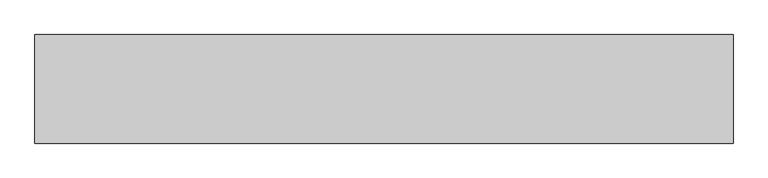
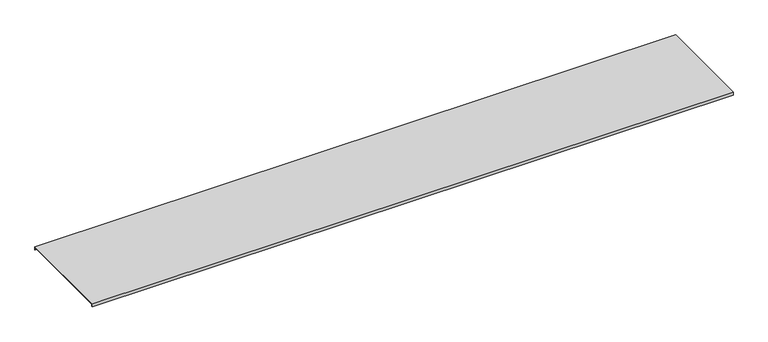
"""IFC4 building model written with IfcOpenShell, lengths in millimetres: cable carrier fitting geometry, ССT_Hyperline_FBTR-CVR-2000 Крышка для оптического лотка : Крышка для оптического лотка."""

import ifcopenshell
import ifcopenshell.guid

model = None  # the IFC model being written
_history = None  # IfcOwnerHistory: only IFC2X3 demands one
_inside = {}  # id of a spatial element -> (the spatial element, [elements in it])
_under = {}  # id of a project, library or spatial element -> (it, [spatial elements below it])
_declared = {}  # id of a project -> (the project, [libraries it declares])
_typed = {}  # id of a type object -> (the type object, [elements of that type])
_made_of = {}  # id of a material, layer set ... -> (it, [elements and type objects made of it])


def new_model(schema):
    """Start an empty IFC model of exactly this schema.

    Asked for "IFC4X3", IfcOpenShell would pick the latest addendum, in which some entities
    have other attributes; the version numbers below select the first issue.
    IFC2X3 requires an IfcOwnerHistory on every rooted entity: one is made here for all.
    """
    global model, _history
    if schema == "IFC4X3":
        model = ifcopenshell.file(schema_version=(4, 3, 0, 0))
    else:
        model = ifcopenshell.file(schema=schema)
    _inside.clear()
    _under.clear()
    _declared.clear()
    _typed.clear()
    _made_of.clear()
    _history = None
    if model.schema == "IFC2X3":
        org = make("IfcOrganization", Name="unknown")
        user = make(
            "IfcPersonAndOrganization",
            ThePerson=make("IfcPerson", FamilyName="unknown"),
            TheOrganization=org,
        )
        app = make(
            "IfcApplication",
            ApplicationDeveloper=org,
            Version="unknown",
            ApplicationFullName="unknown",
            ApplicationIdentifier="unknown",
        )
        _history = make(
            "IfcOwnerHistory",
            OwningUser=user,
            OwningApplication=app,
            ChangeAction="ADDED",
            CreationDate=0,
        )
    return model


def make(cls, **values):
    """One entity of the class cls with the attributes given. An attribute that is None is left unset."""
    return model.create_entity(
        cls, **{name: value for name, value in values.items() if value is not None}
    )


def rooted(cls, **values):
    """An entity with a GlobalId (a new one), such as an element, a storey or a relation."""
    return make(cls, GlobalId=ifcopenshell.guid.new(), OwnerHistory=_history, **values)


def si_unit(unit_type, name, prefix=None):
    """IfcSIUnit, for example si_unit("LENGTHUNIT", "METRE", prefix="MILLI")."""
    return make("IfcSIUnit", UnitType=unit_type, Prefix=prefix, Name=name)


def assignment(units):
    """IfcUnitAssignment: the units of a project."""
    return None if units is None else make("IfcUnitAssignment", Units=units)


def point(xyz):
    """IfcCartesianPoint."""
    return None if xyz is None else make("IfcCartesianPoint", Coordinates=xyz)


def direction(xyz):
    """IfcDirection."""
    return None if xyz is None else make("IfcDirection", DirectionRatios=xyz)


def frame(location, z_axis=None, x_axis=None):
    """IfcAxis2Placement3D, a coordinate frame: its origin and axes. An axis left out is left unset."""
    return make(
        "IfcAxis2Placement3D",
        Location=point(location),
        Axis=direction(z_axis),
        RefDirection=direction(x_axis),
    )


def origin():
    """The frame at (0, 0, 0) with its axes left unset."""
    return frame((0.0, 0.0, 0.0))


def place(relative_to, where):
    """IfcLocalPlacement: puts the frame where relative to a parent placement (None: the world)."""
    return make(
        "IfcLocalPlacement", PlacementRelTo=relative_to, RelativePlacement=where
    )


def context(
    kind, dimensions, precision=None, world=None, true_north=None, identifier=None
):
    """IfcGeometricRepresentationContext, for example the 3D "Model" context."""
    return make(
        "IfcGeometricRepresentationContext",
        ContextIdentifier=identifier,
        ContextType=kind,
        CoordinateSpaceDimension=dimensions,
        Precision=precision,
        WorldCoordinateSystem=world,
        TrueNorth=true_north,
    )


def project(units=None, contexts=None):
    """IfcProject with its units and contexts."""
    return rooted(
        "IfcProject",
        Name="project",
        RepresentationContexts=contexts,
        UnitsInContext=assignment(units),
    )


def spatial(cls, under=None, at=None, **own):
    """A site, building, storey or space (cls), placed at a placement, below another one or the project."""
    s = rooted(cls, ObjectPlacement=at, **own)
    if under is not None:
        _under.setdefault(under.id(), (under, []))[1].append(s)
    return s


def polyline(points):
    """IfcPolyline through the points."""
    return make("IfcPolyline", Points=[point(p) for p in points])


def outline(outer, holes=None, kind="AREA"):
    """IfcArbitraryClosedProfileDef: a profile drawn as a closed curve; with holes, ...WithVoids."""
    if holes is None:
        return make("IfcArbitraryClosedProfileDef", ProfileType=kind, OuterCurve=outer)
    return make(
        "IfcArbitraryProfileDefWithVoids",
        ProfileType=kind,
        OuterCurve=outer,
        InnerCurves=holes,
    )


def extrude(swept, where, along, depth):
    """IfcExtrudedAreaSolid: the profile swept, set in the frame where, extruded along a direction by depth."""
    return make(
        "IfcExtrudedAreaSolid",
        SweptArea=swept,
        Position=where,
        ExtrudedDirection=direction(along),
        Depth=depth,
    )


def shape(context_of_items, identifier, shape_type, items):
    """IfcShapeRepresentation: the items that make up one representation, for example the "Body"."""
    return make(
        "IfcShapeRepresentation",
        ContextOfItems=context_of_items,
        RepresentationIdentifier=identifier,
        RepresentationType=shape_type,
        Items=items,
    )


def source(mapping_origin, context_of_items, identifier, shape_type, items):
    """IfcRepresentationMap: a shape defined once, which mapped items show again and again."""
    return make(
        "IfcRepresentationMap",
        MappingOrigin=mapping_origin,
        MappedRepresentation=shape(context_of_items, identifier, shape_type, items),
    )


def transform(
    local_origin,
    x_axis=None,
    y_axis=None,
    z_axis=None,
    scale=None,
    scale2=None,
    scale3=None,
    uniform=True,
):
    """IfcCartesianTransformationOperator3D, or its non-uniform kind. x_axis, y_axis, z_axis: its Axis1, 2, 3."""
    if uniform:
        return make(
            "IfcCartesianTransformationOperator3D",
            Axis1=direction(x_axis),
            Axis2=direction(y_axis),
            LocalOrigin=point(local_origin),
            Scale=scale,
            Axis3=direction(z_axis),
        )
    return make(
        "IfcCartesianTransformationOperator3DnonUniform",
        Axis1=direction(x_axis),
        Axis2=direction(y_axis),
        LocalOrigin=point(local_origin),
        Scale=scale,
        Axis3=direction(z_axis),
        Scale2=scale2,
        Scale3=scale3,
    )


def mapped(mapping_source, mapping_target):
    """IfcMappedItem: shows the shape of a source again, moved by a transform."""
    return make(
        "IfcMappedItem", MappingSource=mapping_source, MappingTarget=mapping_target
    )


def made_of(thing, what):
    """Note that an element or type object is made of a material, layer set ...; save() writes the relation."""
    if what is not None:
        _made_of.setdefault(what.id(), (what, []))[1].append(thing)
    return thing


def element(
    cls,
    number,
    at=None,
    inside=None,
    cuts=None,
    type_object=None,
    material=None,
    context=None,
    identifier="Body",
    shape_type=None,
    held_by="IfcProductDefinitionShape",
    body=None,
    shapes=None,
    **own,
):
    """One element of the class cls, such as IfcWall. Its Tag is "e" and its number.

    at: its placement. inside: the storey or other place that contains it. cuts: it is an
    opening in that element (IfcRelVoidsElement). A single representation is given by context,
    identifier, shape_type and body (its items); several are given by shapes. held_by: the class
    of the entity that holds the representations. save() writes the other relations.
    """
    e = rooted(cls, Tag="e%d" % number, ObjectPlacement=at, **own)
    if body is not None:
        shapes = [shape(context, identifier, shape_type, body)]
    if shapes is not None:
        e.Representation = make(held_by, Representations=shapes)
    if inside is not None:
        _inside.setdefault(inside.id(), (inside, []))[1].append(e)
    if cuts is not None:
        rooted(
            "IfcRelVoidsElement", RelatingBuildingElement=cuts, RelatedOpeningElement=e
        )
    if type_object is not None:
        _typed.setdefault(type_object.id(), (type_object, []))[1].append(e)
    return made_of(e, material)


def aggregate(whole, parts):
    """IfcRelAggregates: a whole, such as a stair, and the parts it consists of."""
    return rooted("IfcRelAggregates", RelatingObject=whole, RelatedObjects=parts)


def save(model, path):
    """Write the relations noted so far, then the file.

    IfcRelAggregates (storeys below a building ...), IfcRelContainedInSpatialStructure (elements
    in a storey), IfcRelDefinesByType, IfcRelAssociatesMaterial and IfcRelDeclares: one each for
    every whole, place, type object, material and project.
    """
    for whole, parts in _under.values():
        aggregate(whole, parts)
    for where, things in _inside.values():
        rooted(
            "IfcRelContainedInSpatialStructure",
            RelatedElements=things,
            RelatingStructure=where,
        )
    for kind, things in _typed.values():
        rooted("IfcRelDefinesByType", RelatedObjects=things, RelatingType=kind)
    for what, things in _made_of.values():
        rooted("IfcRelAssociatesMaterial", RelatedObjects=things, RelatingMaterial=what)
    for by, libraries in _declared.values():
        rooted("IfcRelDeclares", RelatingContext=by, RelatedDefinitions=libraries)
    model.write(path)


def cable_carrier_fitting_cc96bbe7(model_context):
    return source(origin(), model_context, "Body", "SweptSolid", [
        extrude(outline(polyline([(150.0, 50.0), (-150.0, 50.0), (-150.0, 43.0), (-152.54, 43.0), (-152.54, 52.54), (152.54, 52.54), (152.54, 43.0), (150.0, 43.0), (150.0, 50.0)])), frame((-1780.0, 0.0, 0.0), z_axis=(1.0, 0.0, 0.0), x_axis=(0.0, 1.0, 0.0)), (0.0, 0.0, 1.0), 1960.0),
    ])


if __name__ == "__main__":
    model = new_model("IFC4")
    model_context = context("Model", 3, world=origin())
    ifc_project = project(units=[si_unit("LENGTHUNIT", "METRE", prefix="MILLI")], contexts=[model_context])
    site = spatial("IfcSite", under=ifc_project)
    building = spatial("IfcBuilding", under=site)
    placement = place(None, origin())
    cable_carrier_fitting_shape = cable_carrier_fitting_cc96bbe7(model_context)
    element("IfcCableCarrierFitting", 1, ObjectType="ССT_Hyperline_FBTR-CVR-2000 Крышка для оптического лотка : Крышка для оптического лотка", at=placement, inside=building, context=model_context, shape_type="MappedRepresentation", body=[
        mapped(cable_carrier_fitting_shape, transform((0.0, 0.0, 0.0), x_axis=(1.0, 0.0, 0.0), y_axis=(0.0, 1.0, 0.0), z_axis=(0.0, 0.0, 1.0))),
    ])
    save(model, "model.ifc")
